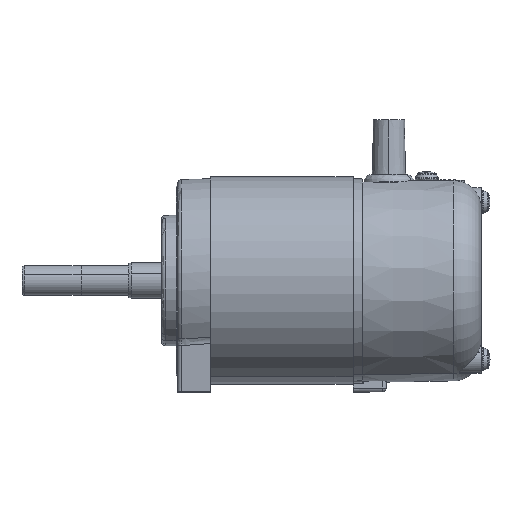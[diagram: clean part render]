
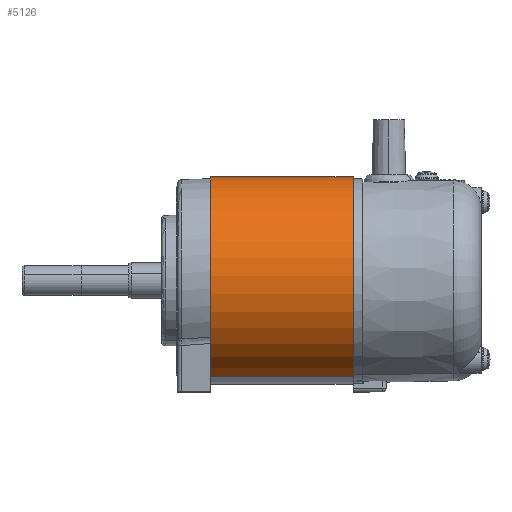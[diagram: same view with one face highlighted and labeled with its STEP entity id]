
A CAD part, top view. The second image highlights one B-rep face of the part: STEP entity #5126.
In plain terms, the highlighted cylindrical face has radius 27.94 mm (diameter 55.88 mm), a partial arc.
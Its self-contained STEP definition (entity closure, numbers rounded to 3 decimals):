
#329 = EDGE_CURVE ( 'NONE', #15429, #25960, #5691, .T. ) ;
#1225 = CARTESIAN_POINT ( 'NONE',  ( 22.13, 55.823, 116.781 ) ) ;
#2370 = CARTESIAN_POINT ( 'NONE',  ( 22.13, 30., 127.449 ) ) ;
#2434 = CIRCLE ( 'NONE', #19460, 27.94 ) ;
#4593 = EDGE_CURVE ( 'NONE', #25960, #20754, #2434, .T. ) ;
#5126 = ADVANCED_FACE ( 'NONE', ( #20061 ), #6212, .T. ) ;
#5691 = LINE ( 'NONE', #1225, #16748 ) ;
#6212 = CYLINDRICAL_SURFACE ( 'NONE', #19439, 27.94 ) ;
#6746 = ORIENTED_EDGE ( 'NONE', *, *, #329, .T. ) ;
#7197 = DIRECTION ( 'NONE',  ( 1., 0., 0. ) ) ;
#8297 = CARTESIAN_POINT ( 'NONE',  ( 41.269, 55.823, 116.781 ) ) ;
#8849 = VECTOR ( 'NONE', #15354, 1000. ) ;
#9105 = DIRECTION ( 'NONE',  ( 0., -0.924, 0.382 ) ) ;
#9180 = CIRCLE ( 'NONE', #10163, 27.94 ) ;
#10004 = VERTEX_POINT ( 'NONE', #12782 ) ;
#10163 = AXIS2_PLACEMENT_3D ( 'NONE', #12983, #26718, #29321 ) ;
#11266 = EDGE_CURVE ( 'NONE', #10004, #20754, #25007, .T. ) ;
#12782 = CARTESIAN_POINT ( 'NONE',  ( 41.269, 4.177, 138.118 ) ) ;
#12983 = CARTESIAN_POINT ( 'NONE',  ( 41.269, 30., 127.449 ) ) ;
#13519 = DIRECTION ( 'NONE',  ( -1., 0., 0. ) ) ;
#15253 = EDGE_LOOP ( 'NONE', ( #26635, #6746, #25530, #17413 ) ) ;
#15354 = DIRECTION ( 'NONE',  ( -1., 0., 0. ) ) ;
#15429 = VERTEX_POINT ( 'NONE', #8297 ) ;
#15506 = CARTESIAN_POINT ( 'NONE',  ( 22.13, 4.177, 138.118 ) ) ;
#16748 = VECTOR ( 'NONE', #28346, 1000. ) ;
#17413 = ORIENTED_EDGE ( 'NONE', *, *, #11266, .F. ) ;
#19275 = EDGE_CURVE ( 'NONE', #10004, #15429, #9180, .T. ) ;
#19439 = AXIS2_PLACEMENT_3D ( 'NONE', #2370, #13519, #9105 ) ;
#19460 = AXIS2_PLACEMENT_3D ( 'NONE', #22907, #7197, #29908 ) ;
#20061 = FACE_OUTER_BOUND ( 'NONE', #15253, .T. ) ;
#20754 = VERTEX_POINT ( 'NONE', #26653 ) ;
#22907 = CARTESIAN_POINT ( 'NONE',  ( 2.991, 30., 127.449 ) ) ;
#25007 = LINE ( 'NONE', #15506, #8849 ) ;
#25530 = ORIENTED_EDGE ( 'NONE', *, *, #4593, .T. ) ;
#25960 = VERTEX_POINT ( 'NONE', #28129 ) ;
#26635 = ORIENTED_EDGE ( 'NONE', *, *, #19275, .T. ) ;
#26653 = CARTESIAN_POINT ( 'NONE',  ( 2.991, 4.177, 138.118 ) ) ;
#26718 = DIRECTION ( 'NONE',  ( -1., 0., 0. ) ) ;
#28129 = CARTESIAN_POINT ( 'NONE',  ( 2.991, 55.823, 116.781 ) ) ;
#28346 = DIRECTION ( 'NONE',  ( -1., 0., 0. ) ) ;
#29321 = DIRECTION ( 'NONE',  ( 0., -0.924, 0.382 ) ) ;
#29908 = DIRECTION ( 'NONE',  ( 0., -0.924, 0.382 ) ) ;
